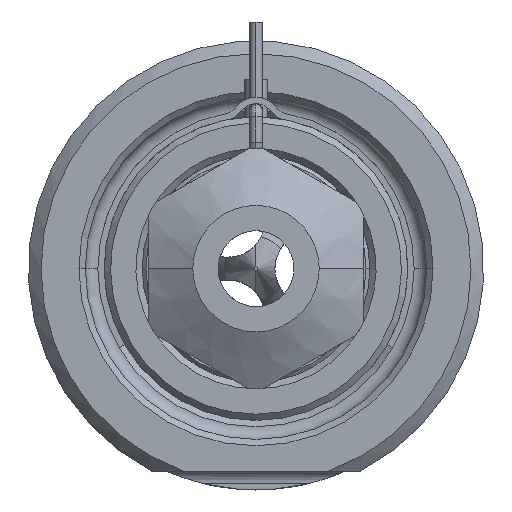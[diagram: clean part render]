
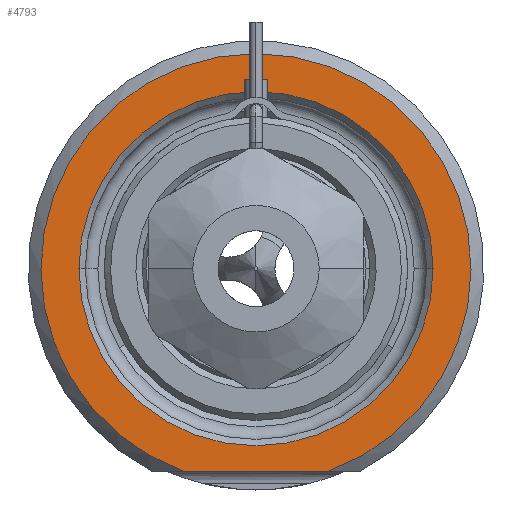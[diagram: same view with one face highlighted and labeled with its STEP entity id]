
A CAD part, front view. The second image highlights one B-rep face of the part: STEP entity #4793.
In plain terms, the highlighted planar face has unit normal (0, -1, 0).
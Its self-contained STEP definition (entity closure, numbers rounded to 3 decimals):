
#1247=CARTESIAN_POINT('',(0.,0.,0.));
#1248=DIRECTION('',(0.,-1.,0.));
#1249=DIRECTION('',(0.338,0.,-0.941));
#1250=AXIS2_PLACEMENT_3D('',#1247,#1248,#1249);
#1271=DIRECTION('',(1.,0.,0.));
#1272=VECTOR('',#1271,11.489);
#1273=CARTESIAN_POINT('',(-5.745,0.,-16.));
#1274=LINE('',#1273,#1272);
#1275=CARTESIAN_POINT('',(0.,0.,0.));
#1276=DIRECTION('',(0.,1.,0.));
#1277=DIRECTION('',(-1.,0.,0.));
#1278=AXIS2_PLACEMENT_3D('',#1275,#1276,#1277);
#1280=CARTESIAN_POINT('',(0.,0.,0.));
#1281=DIRECTION('',(0.,1.,0.));
#1282=DIRECTION('',(1.,0.,0.));
#1283=AXIS2_PLACEMENT_3D('',#1280,#1281,#1282);
#3012=CARTESIAN_POINT('',(-14.,0.,0.));
#3013=CARTESIAN_POINT('',(14.,0.,0.));
#3014=VERTEX_POINT('',#3012);
#3015=VERTEX_POINT('',#3013);
#3062=CARTESIAN_POINT('',(-5.745,0.,-16.));
#3063=CARTESIAN_POINT('',(5.745,0.,-16.));
#3064=VERTEX_POINT('',#3062);
#3065=VERTEX_POINT('',#3063);
#4778=CARTESIAN_POINT('',(0.,0.,0.));
#4779=DIRECTION('',(0.,-1.,0.));
#4780=DIRECTION('',(1.,0.,0.));
#4781=AXIS2_PLACEMENT_3D('',#4778,#4779,#4780);
#4782=PLANE('',#4781);
#4783=ORIENTED_EDGE('',*,*,#4710,.F.);
#4784=ORIENTED_EDGE('',*,*,#4770,.F.);
#4785=EDGE_LOOP('',(#4783,#4784));
#4786=FACE_OUTER_BOUND('',#4785,.F.);
#4788=ORIENTED_EDGE('',*,*,#4787,.F.);
#4790=ORIENTED_EDGE('',*,*,#4789,.F.);
#4791=EDGE_LOOP('',(#4788,#4790));
#4792=FACE_BOUND('',#4791,.F.);
#4793=ADVANCED_FACE('',(#4786,#4792),#4782,.T.);
#1251=CIRCLE('',#1250,17.);
#1279=CIRCLE('',#1278,14.);
#1284=CIRCLE('',#1283,14.);
#4710=EDGE_CURVE('',#3064,#3065,#1274,.T.);
#4770=EDGE_CURVE('',#3065,#3064,#1251,.T.);
#4787=EDGE_CURVE('',#3014,#3015,#1279,.T.);
#4789=EDGE_CURVE('',#3015,#3014,#1284,.T.);
